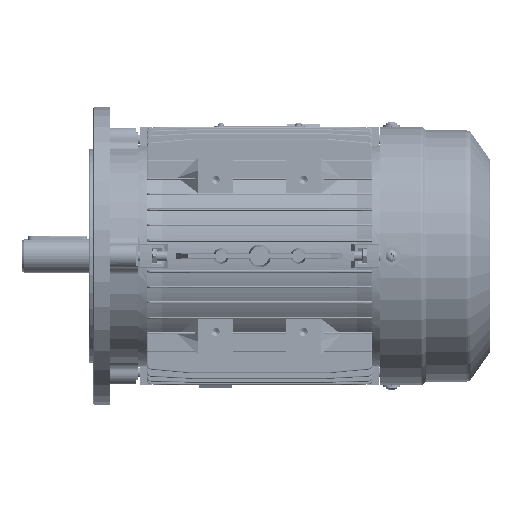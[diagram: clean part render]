
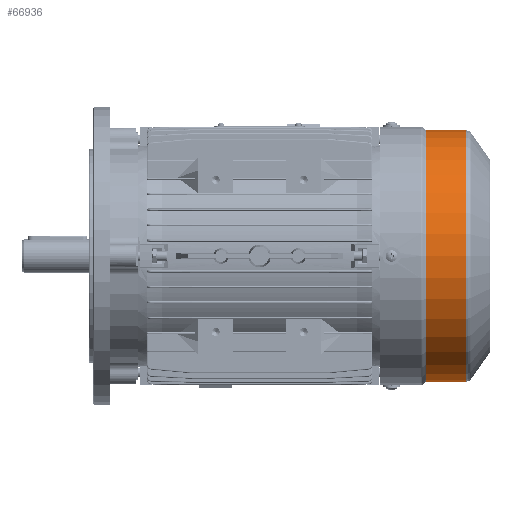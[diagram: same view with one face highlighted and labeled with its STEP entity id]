
A CAD part, front view. The second image highlights one B-rep face of the part: STEP entity #66936.
In plain terms, the highlighted cylindrical face has radius 105.7 mm (diameter 211.4 mm), a partial arc.
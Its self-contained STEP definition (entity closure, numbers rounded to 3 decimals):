
#27076 = CARTESIAN_POINT ( 'NONE',  ( 0., 73., 105.7 ) ) ;
#27078 = CARTESIAN_POINT ( 'NONE',  ( 0., 73., -105.7 ) ) ;
#27080 = CARTESIAN_POINT ( 'NONE',  ( 0., 39.16, 105.7 ) ) ;
#27082 = CARTESIAN_POINT ( 'NONE',  ( 0., 39.16, -105.7 ) ) ;
#39151 = CIRCLE ( 'NONE', #65040, 105.7 ) ;
#39154 = CIRCLE ( 'NONE', #65042, 105.7 ) ;
#39797 = VERTEX_POINT ( 'NONE', #27076 ) ;
#39799 = VERTEX_POINT ( 'NONE', #27078 ) ;
#39801 = VERTEX_POINT ( 'NONE', #27080 ) ;
#39802 = VERTEX_POINT ( 'NONE', #27082 ) ;
#46387 = EDGE_LOOP ( 'NONE', ( #73119, #73123, #73121, #73125 ) ) ;
#64161 = CARTESIAN_POINT ( 'NONE',  ( 0., 73., 0. ) ) ;
#64163 = DIRECTION ( 'NONE',  ( 0., 1., 0. ) ) ;
#64165 = DIRECTION ( 'NONE',  ( 0., 0., 1. ) ) ;
#64173 = CARTESIAN_POINT ( 'NONE',  ( 0., 39.16, 0. ) ) ;
#64175 = LINE ( 'NONE', #64177, #65043 ) ;
#64177 = CARTESIAN_POINT ( 'NONE',  ( 0., 129.365, -105.7 ) ) ;
#64179 = DIRECTION ( 'NONE',  ( 0., 1., 0. ) ) ;
#64181 = DIRECTION ( 'NONE',  ( 0., 1., 0. ) ) ;
#64183 = DIRECTION ( 'NONE',  ( 0., 0., 1. ) ) ;
#64187 = LINE ( 'NONE', #64189, #65045 ) ;
#64189 = CARTESIAN_POINT ( 'NONE',  ( 0., 129.365, 105.7 ) ) ;
#64191 = DIRECTION ( 'NONE',  ( 0., 1., 0. ) ) ;
#65040 = AXIS2_PLACEMENT_3D ( 'NONE', #64161, #64163, #64165 ) ;
#65042 = AXIS2_PLACEMENT_3D ( 'NONE', #64173, #64181, #64183 ) ;
#65043 = VECTOR ( 'NONE', #64179, 1000. ) ;
#65045 = VECTOR ( 'NONE', #64191, 1000. ) ;
#65844 = EDGE_CURVE ( 'NONE', #39797, #39799, #39151, .T. ) ;
#65847 = EDGE_CURVE ( 'NONE', #39802, #39799, #64175, .T. ) ;
#65848 = EDGE_CURVE ( 'NONE', #39801, #39802, #39154, .T. ) ;
#65849 = EDGE_CURVE ( 'NONE', #39801, #39797, #64187, .T. ) ;
#66936 = ADVANCED_FACE ( 'NONE', ( #72545 ), #72552, .T. ) ;
#70631 = CARTESIAN_POINT ( 'NONE',  ( 0., 129.365, 0. ) ) ;
#70633 = DIRECTION ( 'NONE',  ( 0., 1., 0. ) ) ;
#70635 = DIRECTION ( 'NONE',  ( 0., 0., 1. ) ) ;
#72545 = FACE_OUTER_BOUND ( 'NONE', #46387, .T. ) ;
#72550 = AXIS2_PLACEMENT_3D ( 'NONE', #70631, #70633, #70635 ) ;
#72552 = CYLINDRICAL_SURFACE ( 'NONE', #72550, 105.7 ) ;
#73119 = ORIENTED_EDGE ( 'NONE', *, *, #65848, .T. ) ;
#73121 = ORIENTED_EDGE ( 'NONE', *, *, #65844, .F. ) ;
#73123 = ORIENTED_EDGE ( 'NONE', *, *, #65847, .T. ) ;
#73125 = ORIENTED_EDGE ( 'NONE', *, *, #65849, .F. ) ;
